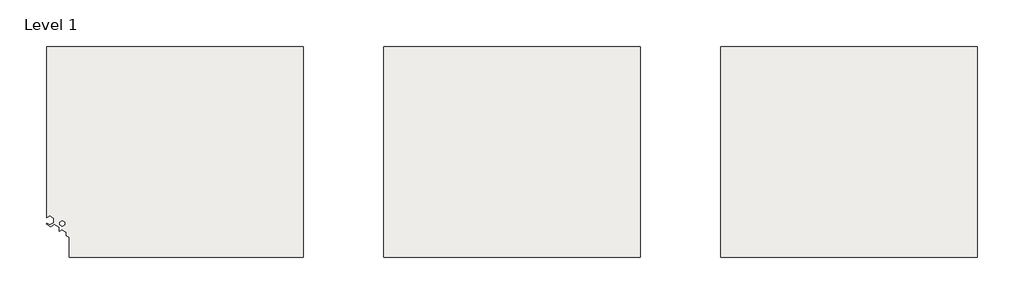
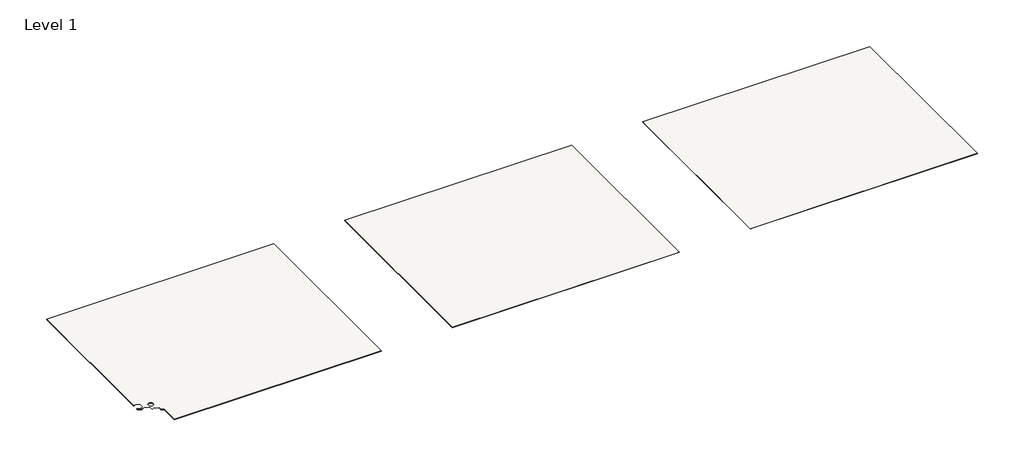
# One storey: 3 coverings.
"""IFC4 building model written with IfcOpenShell, lengths in millimetres."""

from ifc_helpers import new_model, si_unit, frame, origin, place, context, project, spatial, polyline, outline, extrude, element, save

model = new_model("IFC4")

# Units and contexts
model_context = context("Model", 3, world=origin())
ifc_project = project(units=[si_unit("LENGTHUNIT", "METRE", prefix="MILLI")], contexts=[model_context])

# Site, building, storey
site = spatial("IfcSite", under=ifc_project)
building = spatial("IfcBuilding", under=site)
storey = spatial("IfcBuildingStorey", under=building, Name="Level 1", Elevation=2600.0)

# Coverings
placement = place(None, origin())
element("IfcCovering", 1, ObjectType="Cemintel Eaves Lining Sheet 4.5mm x 750mm x 2400mm", at=placement, inside=storey, context=model_context, shape_type="SweptSolid", body=[
    extrude(outline(polyline([(342760.7369529, -1196.8555189), (339712.7369529, -1196.8555189), (339712.7369529, 1303.1444811), (342760.7369529, 1303.1444811), (342760.7369529, -1196.8555189)])), frame((0.0, 0.0, 2600.0), z_axis=(0.0, 0.0, 1.0), x_axis=(1.0, 0.0, 0.0)), (0.0, 0.0, 1.0), 4.5),
])
element("IfcCovering", 2, ObjectType="Cemintel Eaves Lining Sheet 4.5mm x 600mm x 2400mm", at=placement, inside=storey, context=model_context, shape_type="SweptSolid", body=[
    extrude(outline(polyline([(338760.7369529, -1196.8555189), (335712.7369529, -1196.8555189), (335712.7369529, 1303.1444811), (338760.7369529, 1303.1444811), (338760.7369529, -1196.8555189)])), frame((0.0, 0.0, 2600.0), z_axis=(0.0, 0.0, 1.0), x_axis=(1.0, 0.0, 0.0)), (0.0, 0.0, 1.0), 4.5),
])
element("IfcCovering", 3, ObjectType="Cemintel Eaves Lining Sheet 4.5mm x 450mm x 2400mm", at=placement, inside=storey, context=model_context, shape_type="SweptSolid", body=[
    extrude(outline(polyline([(334760.7369529, 1303.1444811), (334760.7369529, -1196.8555189), (331983.5260811, -1196.8555189), (331983.5260811, -960.9815933), (331948.8850649, -940.9815933), (331948.8850649, -901.8707494), (331894.2360407, -870.3191206), (331864.9674006, -887.2173778), (331864.9674006, -840.5791481), (331805.7363961, -806.3821117), (331759.7318706, -832.9428369), (331712.7369529, -805.8103085), (331712.7369529, -792.7920671), (331749.7498883, -814.1614953), (331796.1020433, -787.4000661), (331796.1020433, -732.2284328), (331749.7498883, -705.4670036), (331712.7369529, -726.8364318), (331712.7369529, 1303.1444811), (334760.7369529, 1303.1444811)]), holes=[polyline([(331930.6612024, -781.1383062), (331899.8563251, -763.353102), (331869.0514478, -781.1383062), (331869.0514478, -813.746101), (331899.8563251, -831.5313052), (331930.6612024, -813.746101), (331930.6612024, -781.1383062)])]), frame((0.0, 0.0, 2600.0), z_axis=(0.0, 0.0, 1.0), x_axis=(1.0, 0.0, 0.0)), (0.0, 0.0, 1.0), 4.5),
])

save(model, "model.ifc")
